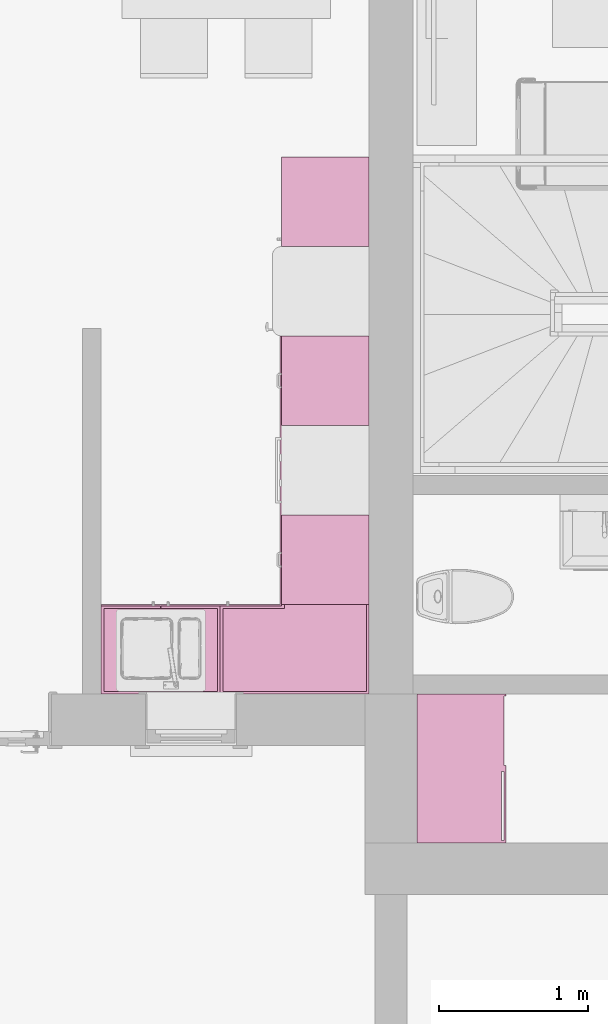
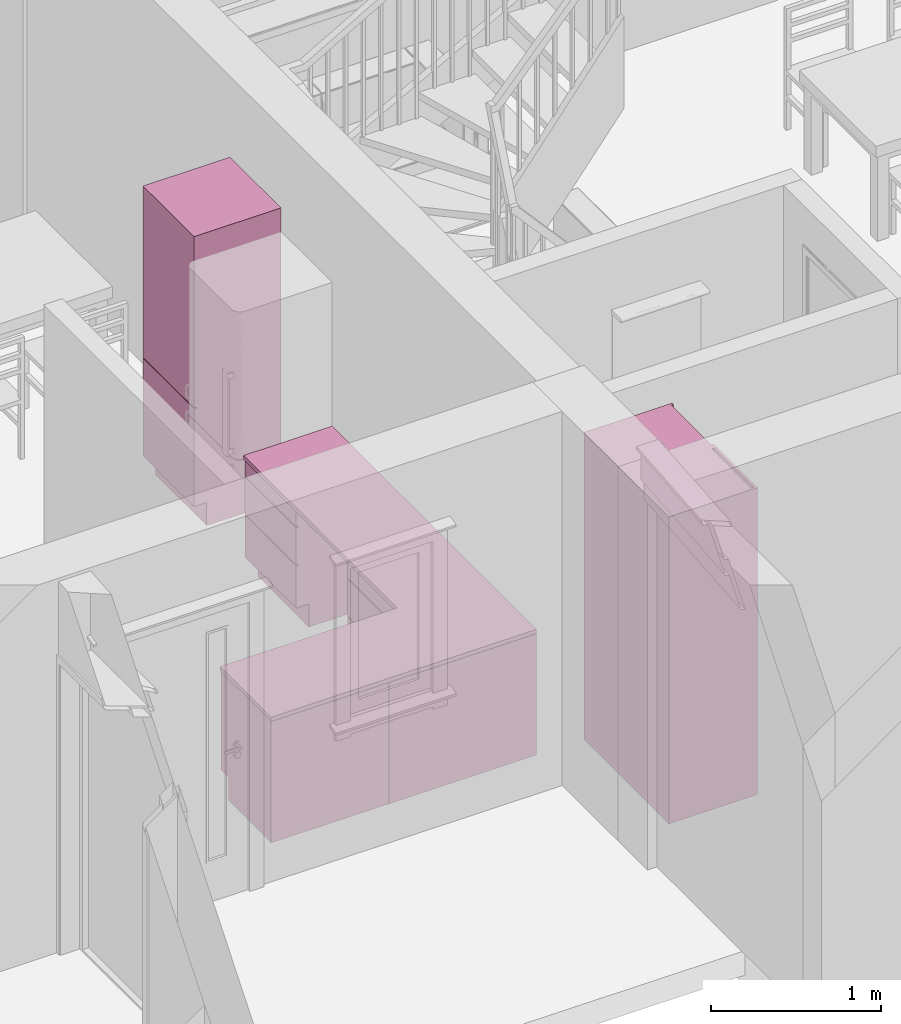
# One storey, part 35 of 65: 7 furnishings.
"""IFC2X3 building model written with IfcOpenShell, lengths in millimetres."""

from ifc_helpers import new_model, entity, si_unit, converted_unit, direction, frame, frame_2d, origin, origin_2d_with_axis, place, context, subcontext, project, spatial, polyline, rectangle, outline, extrude, faceted_brep, source, transform, mapped, material, material_list, type_object, type_shapes, element, save


model = new_model("IFC2X3")

# Units and contexts
model_context = context("Model", 3, precision=0.01, world=origin(), true_north=direction((0.0, 1.0)))
body_context = subcontext(model_context, "Body", "Model", "MODEL_VIEW")
ifc_project = project(units=[si_unit("LENGTHUNIT", "METRE", prefix="MILLI"), si_unit("AREAUNIT", "SQUARE_METRE"), si_unit("VOLUMEUNIT", "CUBIC_METRE"), converted_unit("PLANEANGLEUNIT", "DEGREE", entity("IfcPlaneAngleMeasure", 0.017453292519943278), si_unit("PLANEANGLEUNIT", "RADIAN"), dimensions=[0, 0, 0, 0, 0, 0, 0])], contexts=[model_context])

# Site, building, storey, space
site_placement = place(None, origin())
site = spatial("IfcSite", under=ifc_project, at=site_placement, Name="Default", CompositionType="ELEMENT")
building_placement = place(site_placement, origin())
building = spatial("IfcBuilding", under=site, at=building_placement, CompositionType="ELEMENT")
storey_placement = place(building_placement, origin())
storey = spatial("IfcBuildingStorey", under=building, at=storey_placement, Name="Et. 1", CompositionType="ELEMENT", Elevation=0.0)
space_1_placement = place(storey_placement, origin())
space_1 = spatial("IfcSpace", under=storey, at=space_1_placement, Name="111", CompositionType="ELEMENT", InteriorOrExteriorSpace="INTERNAL")

# Furnishing
ifc_material_1 = material(Name="Møbler - Hvit")
furniture_type_1 = type_object("IfcFurnitureType", Name="Focus Garderobeskap - Skyvedører 2 slette:100x60x220", AssemblyPlace="NOTDEFINED", material=ifc_material_1)
shared_shape_1 = source(origin(), body_context, "Body", "SweptSolid", [
    extrude(rectangle(XDim=16.000000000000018, YDim=504.0000000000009, at=frame_2d((0.0, 4.263256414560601e-14), x_axis=(1.0, 0.0))), frame((232.0, 292.0, 10.0), z_axis=(0.0, 0.0, 1.0), x_axis=(0.0, 1.0, 0.0)), (0.0, 0.0, 1.0), 2189.9999999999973),
    extrude(rectangle(XDim=16.000000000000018, YDim=504.00000000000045, at=frame_2d((0.0, 4.263256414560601e-14), x_axis=(1.0, 0.0))), frame((-232.0, 276.0, 10.0), z_axis=(0.0, 0.0, 1.0), x_axis=(0.0, 1.0, 0.0)), (0.0, 0.0, 1.0), 2189.9999999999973),
    extrude(outline(polyline([(-442.0, -500.0), (158.0, -500.0), (158.0, -484.0), (126.0, -484.0), (126.0, 484.0), (158.0, 484.0), (158.0, 500.0), (-442.0, 500.0), (-442.0, -500.0)])), frame((0.0, 142.0, 0.0), z_axis=(0.0, 0.0, 1.0), x_axis=(0.0, 1.0, 0.0)), (0.0, 0.0, 1.0), 2200.0000000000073),
])
type_shapes(furniture_type_1, [shared_shape_1])
furnishing_1_placement = place(space_1_placement, frame((22651.009586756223, 10254.180957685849, 0.0), z_axis=(0.0, 0.0, 1.0), x_axis=(0.0, -1.0, 0.0)))
element("IfcFurnishingElement", 1, at=furnishing_1_placement, inside=space_1, type_object=furniture_type_1, material=ifc_material_1, Name="Focus Garderobeskap - Skyvedører 2 slette:100x60x220", context=body_context, shape_type="MappedRepresentation", body=[
    mapped(shared_shape_1, transform((0.0, 0.0, 0.0), scale=1.0)),
])

# Space
space_2_placement = place(storey_placement, origin())
space_2 = spatial("IfcSpace", under=storey, at=space_2_placement, Name="105", CompositionType="ELEMENT", InteriorOrExteriorSpace="INTERNAL")

# Furnishings
ifc_material_2 = material(Name="Focus - Kjøkken - Front")
ifc_material_3 = material(Name="Focus - Kjøkken - Skapstamme")
ifc_material_list = material_list([ifc_material_2, ifc_material_3])
furniture_type_2 = type_object("IfcFurnitureType", Name="Focus - Kjøkken - Benkeskap 3 skuffer:600 mm", AssemblyPlace="NOTDEFINED", material=ifc_material_list)
shared_shape_2 = source(origin(), body_context, "Body", "SweptSolid", [
    extrude(rectangle(XDim=600.0, YDim=503.99999999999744, at=frame_2d((-2.842170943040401e-14, -2.842170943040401e-14), x_axis=(1.0, 0.0))), frame((-254.58506095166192, 499.8168112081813, 0.0), z_axis=(0.0, 0.0, 1.0), x_axis=(-1.0, 0.0, 0.0)), (0.0, 0.0, 1.0), 165.99999999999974),
    extrude(rectangle(XDim=16.000000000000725, YDim=600.0000000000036, at=frame_2d((0.0, 2.842170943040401e-14), x_axis=(1.0, 0.0))), frame((-254.58506095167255, 169.81681120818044, 747.0), z_axis=(0.0, 0.0, 1.0), x_axis=(0.0, -1.0, 0.0)), (0.0, 0.0, 1.0), 122.99999999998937),
    extrude(rectangle(XDim=16.000000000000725, YDim=600.0, at=frame_2d((0.0, 2.842170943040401e-14), x_axis=(1.0, 0.0))), frame((-254.58506095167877, 169.81681120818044, 166.0), z_axis=(0.0, 0.0, 1.0), x_axis=(0.0, -1.0, 0.0)), (0.0, 0.0, 1.0), 303.0000000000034),
    extrude(rectangle(XDim=16.000000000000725, YDim=599.9999999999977, at=frame_2d((0.0, 2.842170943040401e-14), x_axis=(1.0, 0.0))), frame((-254.58506095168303, 169.81681120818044, 475.0), z_axis=(0.0, 0.0, 1.0), x_axis=(0.0, -1.0, 0.0)), (0.0, 0.0, 1.0), 265.9999999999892),
    extrude(rectangle(XDim=573.9999999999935, YDim=599.9999999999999, at=frame_2d((-90.33333333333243, 2.842170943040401e-14), x_axis=(1.0, 0.0))), frame((-254.5850609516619, 555.1501445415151, 166.0), z_axis=(0.0, 0.0, 1.0), x_axis=(0.0, 1.0, 0.0)), (0.0, 0.0, 1.0), 704.0000000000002),
])
type_shapes(furniture_type_2, [shared_shape_2])
for number, where, z_axis, x_axis in (
    (2, (21280.19277554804, 11399.595896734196, 0.0), (0.0, 0.0, 1.0), (0.0, -1.0, 0.0)),
    (3, (21280.192775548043, 12601.473658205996, 0.0), (0.0, 0.0, 1.0), (0.0, -1.0, 0.0)),
):
    element("IfcFurnishingElement", number, at=place(space_2_placement, frame(where, z_axis=z_axis, x_axis=x_axis)), inside=space_2, type_object=furniture_type_2, material=ifc_material_list, Name="Focus - Kjøkken - Benkeskap 3 skuffer:600 mm", context=body_context, shape_type="MappedRepresentation", body=[
        mapped(shared_shape_2, transform((0.0, 0.0, 0.0), scale=1.0)),
    ])
furniture_type_3 = type_object("IfcFurnitureType", Name="Focus - Kjøkken - Benkeskap  2  dører:800 mm", AssemblyPlace="NOTDEFINED", material=ifc_material_list)
shared_shape_3 = source(origin(), body_context, "Body", "Brep", [
    faceted_brep([(145.41493904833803, 751.8168112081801, 166.0), (-654.5850609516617, 751.8168112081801, 166.0), (-654.5850609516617, 247.8168112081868, 166.0), (145.41493904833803, 247.8168112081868, 166.0), (145.41493904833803, 751.8168112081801, 0.0), (145.41493904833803, 247.8168112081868, 0.0), (-654.5850609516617, 247.8168112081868, 0.0), (-654.5850609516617, 751.8168112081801, 0.0)], [[[0, 1, 2, 3]], [[4, 5, 6, 7]], [[1, 0, 4, 7]], [[2, 1, 7, 6]], [[3, 2, 6, 5]], [[0, 3, 5, 4]]]),
    faceted_brep([(-253.58506095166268, 177.81681120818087, 870.0), (145.41493904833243, 177.8168112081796, 870.0), (145.41493904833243, 177.8168112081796, 166.0), (-253.58506095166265, 177.81681120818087, 166.0), (-253.58506095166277, 161.81681120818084, 870.0), (-253.5850609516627, 161.81681120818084, 166.0), (145.41493904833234, 161.81681120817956, 166.0), (145.41493904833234, 161.81681120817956, 870.0)], [[[0, 1, 2, 3]], [[4, 5, 6, 7]], [[1, 0, 4, 7]], [[2, 1, 7, 6]], [[3, 2, 6, 5]], [[0, 3, 5, 4]]]),
    faceted_brep([(-255.58506095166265, 177.81681120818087, 166.0), (-255.58506095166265, 177.81681120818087, 870.0), (-255.5850609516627, 161.81681120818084, 870.0), (-255.5850609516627, 161.81681120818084, 166.0), (-654.5850609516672, 177.81681120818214, 166.0), (-654.5850609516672, 161.81681120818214, 166.0), (-654.5850609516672, 177.81681120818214, 870.0), (-654.5850609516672, 161.81681120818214, 870.0)], [[[0, 1, 2, 3]], [[4, 0, 3, 5]], [[6, 4, 5, 7]], [[1, 6, 7, 2]], [[2, 7, 5, 3]], [[1, 0, 4, 6]]]),
    faceted_brep([(-654.5850609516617, 177.81681120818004, 870.0), (-654.5850609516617, 177.81681120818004, 166.0), (145.41493904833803, 177.81681120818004, 166.0), (145.41493904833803, 177.81681120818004, 870.0), (125.41493904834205, 177.81681120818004, 870.0), (125.41493904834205, 177.81681120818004, 186.0), (-634.5850609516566, 177.81681120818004, 186.0), (-634.5850609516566, 177.81681120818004, 870.0), (145.41493904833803, 751.8168112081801, 870.0), (145.41493904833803, 751.8168112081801, 166.0), (-654.5850609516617, 751.8168112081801, 166.0), (-654.5850609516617, 751.8168112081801, 870.0), (-654.5850609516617, 735.8168112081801, 166.0), (145.41493904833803, 735.8168112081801, 166.0), (-634.5850609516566, 735.8168112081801, 870.0), (125.41493904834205, 735.8168112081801, 870.0), (125.41493904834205, 735.8168112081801, 186.0), (-634.5850609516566, 735.8168112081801, 186.0)], [[[0, 1, 2, 3, 4, 5, 6, 7]], [[8, 9, 10, 11]], [[1, 0, 11, 10, 12]], [[2, 1, 12, 10, 9, 13]], [[8, 3, 2, 13, 9]], [[4, 3, 8, 11, 0, 7, 14, 15]], [[5, 4, 15, 16]], [[6, 5, 16, 17]], [[7, 6, 17, 14]], [[15, 14, 17, 16]]]),
])
type_shapes(furniture_type_3, [shared_shape_3])
furnishing_2_placement = place(space_2_placement, frame((20377.424525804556, 11505.997768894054, 0.0), z_axis=(0.0, 0.0, 1.0), x_axis=(-1.0, 0.0, 0.0)))
element("IfcFurnishingElement", 4, at=furnishing_2_placement, inside=space_2, type_object=furniture_type_3, material=ifc_material_list, Name="Focus - Kjøkken - Benkeskap  2  dører:800 mm", context=body_context, shape_type="MappedRepresentation", body=[
    mapped(shared_shape_3, transform((0.0, 0.0, 0.0), scale=1.0)),
])
furniture_type_4 = type_object("IfcFurnitureType", Name="Focus - Kjøkken - Benkeskap  Hjørne:1000x650 mm", AssemblyPlace="NOTDEFINED", material=ifc_material_list)
shared_shape_4 = source(origin(), body_context, "Body", "Brep", [
    faceted_brep([(-7.185060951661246, 751.8168112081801, 166.0), (-1007.1850609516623, 751.8168112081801, 166.0), (-1007.1850609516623, 101.81681120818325, 166.0), (-503.1850609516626, 101.81681120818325, 166.0), (-503.1850609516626, 247.81681120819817, 166.0), (-7.185060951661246, 247.81681120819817, 166.0), (-7.185060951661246, 751.8168112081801, 0.0), (-7.185060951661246, 247.81681120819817, 0.0), (-503.1850609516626, 247.81681120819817, 0.0), (-503.1850609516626, 101.81681120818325, 0.0), (-1007.1850609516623, 101.81681120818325, 0.0), (-1007.1850609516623, 751.8168112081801, 0.0)], [[[0, 1, 2, 3, 4, 5]], [[6, 7, 8, 9, 10, 11]], [[1, 0, 6, 11]], [[2, 1, 11, 10]], [[3, 2, 10, 9]], [[4, 3, 9, 8]], [[5, 4, 8, 7]], [[0, 5, 7, 6]]]),
    faceted_brep([(-7.18506095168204, 177.81681120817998, 870.0), (-7.185060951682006, 177.81681120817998, 166.0), (-392.18506095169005, 177.8168112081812, 166.0), (-392.1850609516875, 177.8168112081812, 870.0), (-7.185060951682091, 161.81681120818, 870.0), (-392.18506095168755, 161.8168112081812, 870.0), (-392.1850609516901, 161.8168112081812, 166.0), (-7.185060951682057, 161.81681120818, 166.0)], [[[0, 1, 2, 3]], [[4, 5, 6, 7]], [[1, 0, 4, 7]], [[2, 1, 7, 6]], [[3, 2, 6, 5]], [[0, 3, 5, 4]]]),
    faceted_brep([(-7.185060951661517, 177.81681120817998, 166.0), (-7.185060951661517, 177.81681120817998, 870.0), (-27.18506095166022, 177.81681120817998, 870.0), (-27.18506095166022, 177.81681120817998, 190.0), (-392.1850609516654, 177.81681120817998, 190.0), (-392.1850609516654, 177.81681120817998, 166.0), (-7.185060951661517, 751.8168112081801, 870.0), (-7.185060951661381, 751.8168112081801, 166.0), (-1007.185060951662, 751.8168112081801, 166.0), (-1007.1850609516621, 751.8168112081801, 870.0), (-1007.1850609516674, 101.81681120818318, 870.0), (-417.18506095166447, 101.81681120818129, 870.0), (-417.1850609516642, 161.81681120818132, 870.0), (-392.18506095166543, 161.81681120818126, 870.0), (-392.1850609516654, 177.81681120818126, 870.0), (-437.18506095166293, 177.8168112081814, 870.0), (-437.18506095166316, 117.81681120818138, 870.0), (-987.1850609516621, 117.81681120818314, 870.0), (-987.1850609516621, 735.8168112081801, 870.0), (-27.18506095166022, 735.8168112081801, 870.0), (-1007.185060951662, 101.81681120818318, 166.0), (-392.1850609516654, 161.81681120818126, 166.0), (-417.1850609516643, 161.81681120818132, 166.0), (-417.18506095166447, 101.81681120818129, 166.0), (-27.185060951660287, 735.8168112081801, 190.0), (-987.1850609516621, 735.8168112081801, 190.0), (-987.1850609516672, 117.81681120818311, 190.0), (-437.1850609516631, 117.81681120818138, 190.0), (-437.18506095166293, 177.8168112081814, 190.0)], [[[0, 1, 2, 3, 4, 5]], [[6, 7, 8, 9]], [[2, 1, 6, 9, 10, 11, 12, 13, 14, 15, 16, 17, 18, 19]], [[9, 8, 20, 10]], [[8, 7, 0, 5, 21, 22, 23, 20]], [[1, 0, 7, 6]], [[3, 2, 19, 24]], [[3, 24, 25, 26, 27, 28, 4]], [[25, 18, 17, 26]], [[19, 18, 25, 24]], [[28, 15, 14, 4]], [[10, 20, 23, 11]], [[15, 28, 27, 16]], [[11, 23, 22, 12]], [[17, 16, 27, 26]], [[13, 12, 22, 21]], [[13, 21, 5, 4, 14]]]),
])
type_shapes(furniture_type_4, [shared_shape_4])
furnishing_3_placement = place(space_2_placement, frame((21024.82452580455, 11505.997768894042, 0.0), z_axis=(0.0, 0.0, 1.0), x_axis=(-1.0, 0.0, 0.0)))
element("IfcFurnishingElement", 5, at=furnishing_3_placement, inside=space_2, type_object=furniture_type_4, material=ifc_material_list, Name="Focus - Kjøkken - Benkeskap  Hjørne:1000x650 mm", context=body_context, shape_type="MappedRepresentation", body=[
    mapped(shared_shape_4, transform((0.0, 0.0, 0.0), scale=1.0)),
])
furniture_type_5 = type_object("IfcFurnitureType", Name="Focus - Kjøkken - Høyskap 2 dører:600 mm", AssemblyPlace="NOTDEFINED", material=ifc_material_list)
shared_shape_5 = source(origin(), body_context, "Body", "SweptSolid", [
    extrude(rectangle(XDim=599.9999999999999, YDim=503.9999999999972, at=origin_2d_with_axis()), frame((-254.58506095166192, 499.81681120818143, 0.0), z_axis=(0.0, 0.0, 1.0), x_axis=(-1.0, 0.0, 0.0)), (0.0, 0.0, 1.0), 165.99999999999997),
    extrude(rectangle(XDim=16.000000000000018, YDim=600.0000000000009, at=frame_2d((-1.687538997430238e-14, 0.0), x_axis=(1.0, 0.0))), frame((-254.58506095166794, 169.81681120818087, 873.0), z_axis=(0.0, 0.0, 1.0), x_axis=(0.0, -1.0, 0.0)), (0.0, 0.0, 1.0), 1226.9999999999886),
    extrude(rectangle(XDim=16.000000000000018, YDim=600.0000000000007, at=frame_2d((-1.687538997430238e-14, -2.842170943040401e-14), x_axis=(1.0, 0.0))), frame((-254.585060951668, 169.81681120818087, 166.0), z_axis=(0.0, 0.0, 1.0), x_axis=(0.0, -1.0, 0.0)), (0.0, 0.0, 1.0), 701.0000000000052),
    extrude(rectangle(XDim=573.9999999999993, YDim=599.9999999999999, at=frame_2d((-2.842170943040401e-14, 0.0), x_axis=(1.0, 0.0))), frame((-254.5850609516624, 464.81681120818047, 166.0), z_axis=(0.0, 0.0, 1.0), x_axis=(0.0, 1.0, 0.0)), (0.0, 0.0, 1.0), 1934.0000000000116),
])
type_shapes(furniture_type_5, [shared_shape_5])
furnishing_4_placement = place(space_2_placement, frame((21280.192775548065, 13801.473658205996, 0.0), z_axis=(0.0, 0.0, 1.0), x_axis=(0.0, -1.0, 0.0)))
element("IfcFurnishingElement", 6, at=furnishing_4_placement, inside=space_2, type_object=furniture_type_5, material=ifc_material_list, Name="Focus - Kjøkken - Høyskap 2 dører:600 mm", context=body_context, shape_type="MappedRepresentation", body=[
    mapped(shared_shape_5, transform((0.0, 0.0, 0.0), scale=1.0)),
])
ifc_material_4 = material(Name="Focus - Material - Benkeplate")
furniture_type_6 = type_object("IfcFurnitureType", Name="Focus - Kjøkken - Benkeplate Hjørne:Focus - Kjøkken - Benkeplate Hjørne", AssemblyPlace="NOTDEFINED", material=ifc_material_4)
shared_shape_6 = source(origin(), body_context, "Body", "SweptSolid", [
    extrude(outline(polyline([(-1000.6259204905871, -800.0), (1401.251840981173, -800.0), (1401.251840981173, -200.0), (-400.6259204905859, -200.0), (-400.6259204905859, 1000.0), (-1000.6259204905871, 1000.0), (-1000.6259204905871, -800.0)])), frame((799.3740795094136, -800.0, 870.0), z_axis=(0.0, 0.0, 1.0), x_axis=(-1.0, 0.0, 0.0)), (0.0, 0.0, 1.0), 29.999999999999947),
])
type_shapes(furniture_type_6, [shared_shape_6])
furnishing_5_placement = place(space_2_placement, frame((22032.009586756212, 12554.180957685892, 0.0), z_axis=(0.0, 0.0, 1.0), x_axis=(0.0, -1.0, 0.0)))
element("IfcFurnishingElement", 7, at=furnishing_5_placement, inside=space_2, type_object=furniture_type_6, material=ifc_material_4, Name="Focus - Kjøkken - Benkeplate Hjørne:Focus - Kjøkken - Benkeplate Hjørne", context=body_context, shape_type="MappedRepresentation", body=[
    mapped(shared_shape_6, transform((0.0, 0.0, 0.0), scale=1.0)),
])

save(model, "model.ifc")
